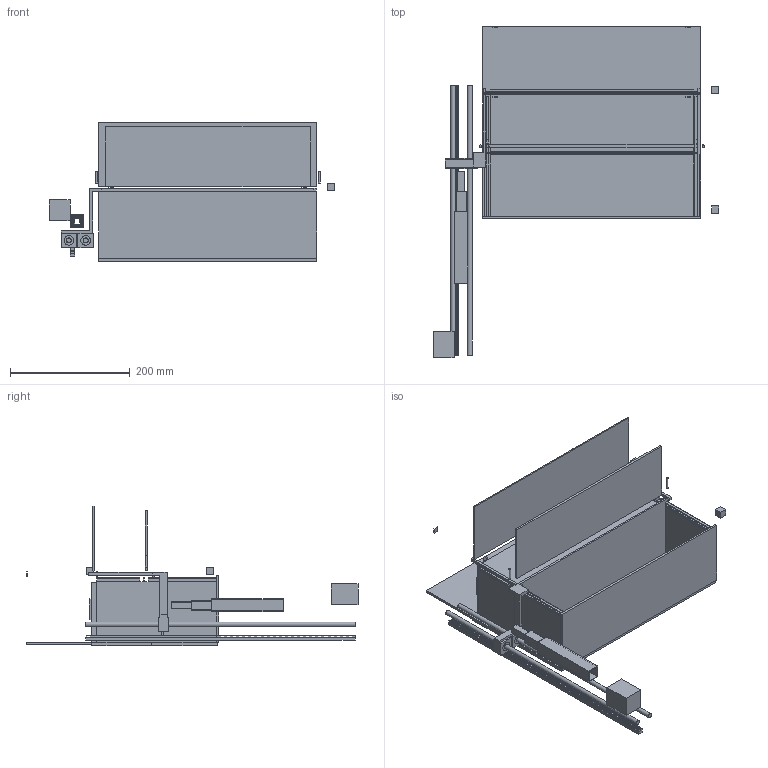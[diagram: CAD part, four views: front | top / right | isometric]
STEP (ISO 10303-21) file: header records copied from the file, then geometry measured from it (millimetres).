
FILE_DESCRIPTION(('FreeCAD Model'),'2;1');
FILE_NAME('Open CASCADE Shape Model','2026-10-19T11:27:51',('FreeCAD'),( 'FreeCAD'),'Open CASCADE STEP processor 7.8','FreeCAD','Unknown');
FILE_SCHEMA(('AUTOMOTIVE_DESIGN { 1 0 10303 214 1 1 1 1 }'));
Length unit declared in the file: millimetre
Products named in the file (1): Open CASCADE STEP translator 7.8 23
Bounding box: 477.5 x 555 x 234 mm (x, y, z)
Volume: 4927048.8 mm3; surface area: 963638.9 mm2
Topology: 29 solids, 29 shells, 1170 faces, 3333 edges, 2222 vertices
Faces by surface type: plane 1160, cylinder 10
Full cylindrical faces by diameter (mm): 4 x2, 8 x2, 8.5 x2, 16 x4
Entity records: 37259 total; most frequent: CARTESIAN_POINT 6726, ORIENTED_EDGE 6666, DIRECTION 5695, EDGE_CURVE 3333, LINE 3313, VECTOR 3313, VERTEX_POINT 2222, AXIS2_PLACEMENT_3D 1191
